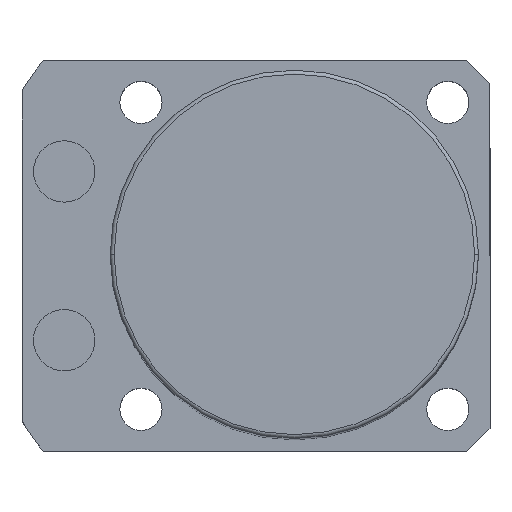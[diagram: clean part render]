
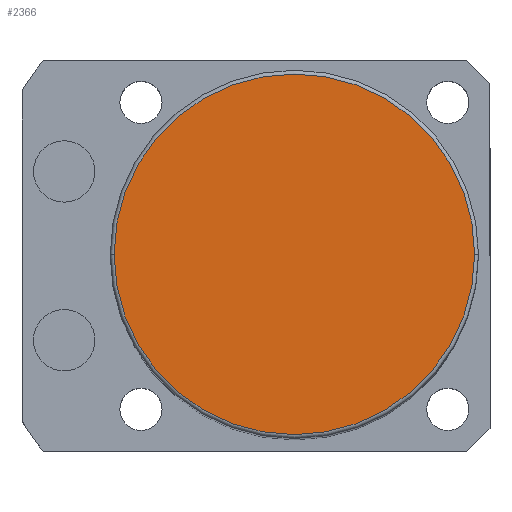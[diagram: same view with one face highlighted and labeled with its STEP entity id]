
A CAD part, top view. The second image highlights one B-rep face of the part: STEP entity #2366.
In plain terms, the highlighted planar face has unit normal (0, 0, 1).
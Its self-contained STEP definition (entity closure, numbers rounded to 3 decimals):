
#16 = AXIS2_PLACEMENT_3D ( 'NONE', #164, #743, #542 ) ;
#100 = CARTESIAN_POINT ( 'NONE',  ( 0., 0., 126. ) ) ;
#156 = EDGE_CURVE ( 'NONE', #1050, #916, #1708, .T. ) ;
#164 = CARTESIAN_POINT ( 'NONE',  ( 0., 0., 126. ) ) ;
#542 = DIRECTION ( 'NONE',  ( 1., 0., 0. ) ) ;
#618 = CARTESIAN_POINT ( 'NONE',  ( -23.5, 0., 126. ) ) ;
#697 = DIRECTION ( 'NONE',  ( 1., 0., 0. ) ) ;
#743 = DIRECTION ( 'NONE',  ( 0., 0., 1. ) ) ;
#916 = VERTEX_POINT ( 'NONE', #1956 ) ;
#1032 = AXIS2_PLACEMENT_3D ( 'NONE', #100, #2109, #1382 ) ;
#1050 = VERTEX_POINT ( 'NONE', #618 ) ;
#1081 = DIRECTION ( 'NONE',  ( 0., 0., 1. ) ) ;
#1265 = ORIENTED_EDGE ( 'NONE', *, *, #1795, .T. ) ;
#1376 = CIRCLE ( 'NONE', #16, 23.5 ) ;
#1382 = DIRECTION ( 'NONE',  ( 1., 0., 0. ) ) ;
#1411 = ORIENTED_EDGE ( 'NONE', *, *, #156, .T. ) ;
#1453 = CARTESIAN_POINT ( 'NONE',  ( 0., 0., 126. ) ) ;
#1617 = PLANE ( 'NONE',  #2361 ) ;
#1708 = CIRCLE ( 'NONE', #1032, 23.5 ) ;
#1795 = EDGE_CURVE ( 'NONE', #916, #1050, #1376, .T. ) ;
#1815 = FACE_OUTER_BOUND ( 'NONE', #2039, .T. ) ;
#1956 = CARTESIAN_POINT ( 'NONE',  ( 23.5, 0., 126. ) ) ;
#2039 = EDGE_LOOP ( 'NONE', ( #1265, #1411 ) ) ;
#2109 = DIRECTION ( 'NONE',  ( 0., 0., 1. ) ) ;
#2361 = AXIS2_PLACEMENT_3D ( 'NONE', #1453, #1081, #697 ) ;
#2366 = ADVANCED_FACE ( 'NONE', ( #1815 ), #1617, .T. ) ;
